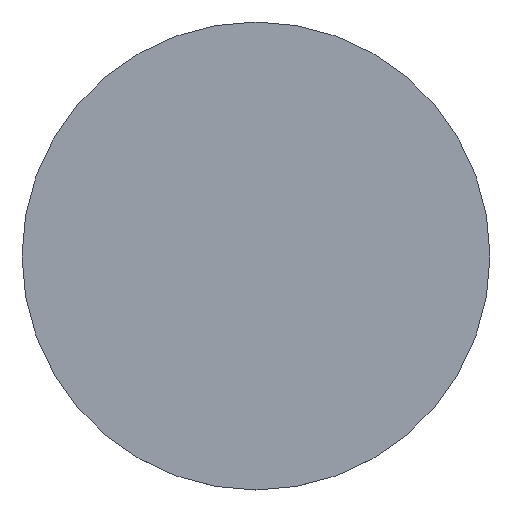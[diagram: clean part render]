
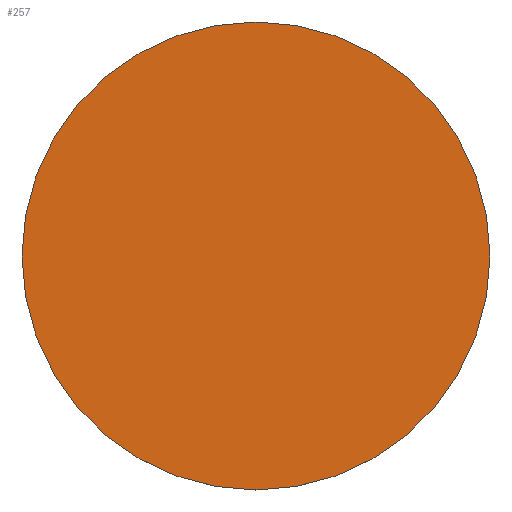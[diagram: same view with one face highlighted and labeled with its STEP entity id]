
A CAD part, top view. The second image highlights one B-rep face of the part: STEP entity #257.
In plain terms, the highlighted planar face has unit normal (0, 0, 1).
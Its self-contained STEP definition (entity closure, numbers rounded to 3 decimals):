
#55=CARTESIAN_POINT('',(0.,42.,62.35));
#56=DIRECTION('',(0.,0.,1.));
#57=DIRECTION('',(0.,1.,0.));
#58=AXIS2_PLACEMENT_3D('',#55,#56,#57);
#60=CARTESIAN_POINT('',(0.,42.,62.35));
#61=DIRECTION('',(0.,0.,1.));
#62=DIRECTION('',(0.,-1.,0.));
#63=AXIS2_PLACEMENT_3D('',#60,#61,#62);
#114=CARTESIAN_POINT('',(0.,-48.,62.35));
#116=VERTEX_POINT('',#114);
#133=CARTESIAN_POINT('',(0.,132.,62.35));
#134=VERTEX_POINT('',#133);
#248=CARTESIAN_POINT('',(0.,42.,62.35));
#249=DIRECTION('',(0.,0.,1.));
#250=DIRECTION('',(0.,-1.,0.));
#251=AXIS2_PLACEMENT_3D('',#248,#249,#250);
#252=PLANE('',#251);
#253=ORIENTED_EDGE('',*,*,#156,.F.);
#254=ORIENTED_EDGE('',*,*,#225,.F.);
#255=EDGE_LOOP('',(#253,#254));
#256=FACE_OUTER_BOUND('',#255,.F.);
#257=ADVANCED_FACE('',(#256),#252,.T.);
#59=CIRCLE('',#58,90.);
#64=CIRCLE('',#63,90.);
#156=EDGE_CURVE('',#134,#116,#59,.T.);
#225=EDGE_CURVE('',#116,#134,#64,.T.);
